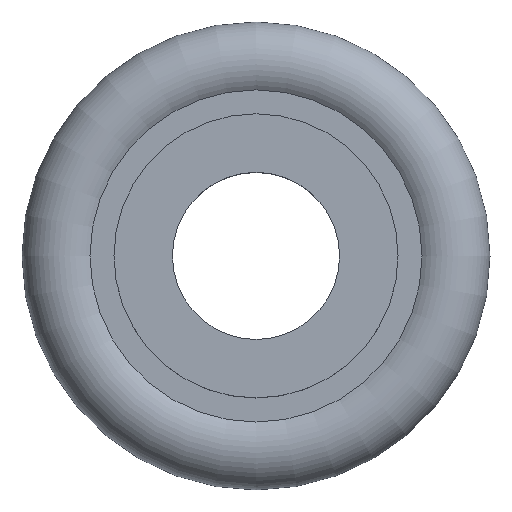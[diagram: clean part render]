
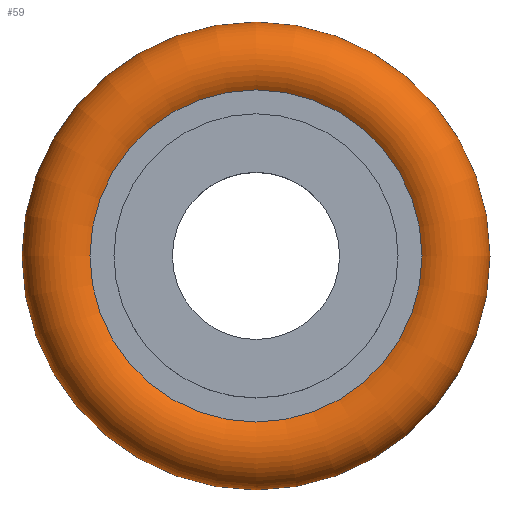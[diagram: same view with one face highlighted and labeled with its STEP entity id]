
A CAD part, top view. The second image highlights one B-rep face of the part: STEP entity #59.
In plain terms, the highlighted toroidal (fillet/blend) face has major radius 11.5 mm and minor radius 2.5 mm.
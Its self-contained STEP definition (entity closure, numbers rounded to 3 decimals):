
#59 = ADVANCED_FACE( '', ( #110, #111 ), #112, .T. );
#110 = FACE_OUTER_BOUND( '', #156, .T. );
#111 = FACE_OUTER_BOUND( '', #157, .T. );
#112 = TOROIDAL_SURFACE( '', #158, 11.5, 2.5 );
#156 = EDGE_LOOP( '', ( #194 ) );
#157 = EDGE_LOOP( '', ( #195 ) );
#158 = AXIS2_PLACEMENT_3D( '', #196, #197, #198 );
#194 = ORIENTED_EDGE( '', *, *, #237, .F. );
#195 = ORIENTED_EDGE( '', *, *, #238, .T. );
#196 = CARTESIAN_POINT( '', ( 0., 0., 0. ) );
#197 = DIRECTION( '', ( 0., 0., -1. ) );
#198 = DIRECTION( '', ( -1., 0., 0. ) );
#237 = EDGE_CURVE( '', #257, #257, #258, .T. );
#238 = EDGE_CURVE( '', #259, #259, #260, .T. );
#257 = VERTEX_POINT( '', #281 );
#258 = CIRCLE( '', #282, 9.936 );
#259 = VERTEX_POINT( '', #283 );
#260 = CIRCLE( '', #284, 9.936 );
#281 = CARTESIAN_POINT( '', ( -9.936, 0., -1.95 ) );
#282 = AXIS2_PLACEMENT_3D( '', #306, #307, #308 );
#283 = CARTESIAN_POINT( '', ( -9.936, 0., 1.95 ) );
#284 = AXIS2_PLACEMENT_3D( '', #309, #310, #311 );
#306 = CARTESIAN_POINT( '', ( 0., 0., -1.95 ) );
#307 = DIRECTION( '', ( 0., 0., -1. ) );
#308 = DIRECTION( '', ( -1., 0., 0. ) );
#309 = CARTESIAN_POINT( '', ( 0., 0., 1.95 ) );
#310 = DIRECTION( '', ( 0., 0., -1. ) );
#311 = DIRECTION( '', ( -1., 0., 0. ) );
